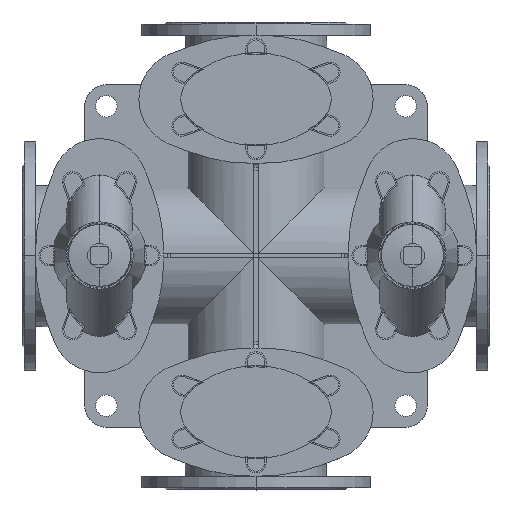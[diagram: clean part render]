
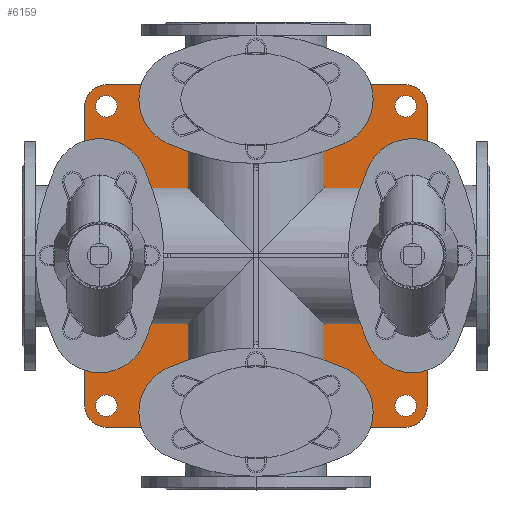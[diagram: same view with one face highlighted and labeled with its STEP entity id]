
A CAD part, top view. The second image highlights one B-rep face of the part: STEP entity #6159.
In plain terms, the highlighted planar face has unit normal (0, 0, 1).
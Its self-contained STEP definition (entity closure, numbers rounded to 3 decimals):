
#6159=ADVANCED_FACE('',(#11898,#11899,#11900,#11901,#11902),#11903,.F.);
#11898=FACE_BOUND('',#18920,.T.);
#11899=FACE_BOUND('',#18921,.T.);
#11900=FACE_BOUND('',#18922,.T.);
#11901=FACE_BOUND('',#18923,.T.);
#11902=FACE_OUTER_BOUND('',#18924,.T.);
#11903=PLANE('',#18925);
#18920=EDGE_LOOP('',(#30917,#30918));
#18921=EDGE_LOOP('',(#30919,#30920));
#18922=EDGE_LOOP('',(#30921,#30922));
#18923=EDGE_LOOP('',(#30923,#30924));
#18924=EDGE_LOOP('',(#30925,#30926,#30927,#30928,#30929,#30930,#30931,#30932));
#18925=AXIS2_PLACEMENT_3D('',#30933,#30934,#30935);
#30917=ORIENTED_EDGE('',*,*,#38032,.T.);
#30918=ORIENTED_EDGE('',*,*,#41721,.T.);
#30919=ORIENTED_EDGE('',*,*,#41421,.T.);
#30920=ORIENTED_EDGE('',*,*,#41924,.T.);
#30921=ORIENTED_EDGE('',*,*,#40003,.T.);
#30922=ORIENTED_EDGE('',*,*,#38084,.T.);
#30923=ORIENTED_EDGE('',*,*,#37598,.T.);
#30924=ORIENTED_EDGE('',*,*,#38601,.T.);
#30925=ORIENTED_EDGE('',*,*,#41777,.F.);
#30926=ORIENTED_EDGE('',*,*,#39306,.F.);
#30927=ORIENTED_EDGE('',*,*,#41925,.F.);
#30928=ORIENTED_EDGE('',*,*,#38465,.F.);
#30929=ORIENTED_EDGE('',*,*,#41926,.F.);
#30930=ORIENTED_EDGE('',*,*,#41927,.F.);
#30931=ORIENTED_EDGE('',*,*,#38788,.F.);
#30932=ORIENTED_EDGE('',*,*,#39996,.F.);
#30933=CARTESIAN_POINT('',(347.5,0.,27.0));
#30934=DIRECTION('',(0.0,0.0,-1.0));
#30935=DIRECTION('',(-1.0,0.0,0.0));
#37598=EDGE_CURVE('',#44272,#44277,#44279,.T.);
#38032=EDGE_CURVE('',#45039,#45041,#45043,.T.);
#38084=EDGE_CURVE('',#45134,#45132,#45135,.T.);
#38465=EDGE_CURVE('',#45791,#45792,#45793,.T.);
#38601=EDGE_CURVE('',#44277,#44272,#46021,.T.);
#38788=EDGE_CURVE('',#46336,#46337,#46338,.T.);
#39306=EDGE_CURVE('',#47161,#47162,#47163,.T.);
#39996=EDGE_CURVE('',#48202,#46336,#48203,.T.);
#40003=EDGE_CURVE('',#45132,#45134,#48212,.T.);
#41421=EDGE_CURVE('',#50217,#50219,#50221,.T.);
#41721=EDGE_CURVE('',#45041,#45039,#50600,.T.);
#41777=EDGE_CURVE('',#47162,#48202,#50670,.T.);
#41924=EDGE_CURVE('',#50219,#50217,#50852,.T.);
#41925=EDGE_CURVE('',#45792,#47161,#50853,.T.);
#41926=EDGE_CURVE('',#50854,#45791,#50855,.T.);
#41927=EDGE_CURVE('',#46337,#50854,#50856,.T.);
#44272=VERTEX_POINT('',#53624);
#44277=VERTEX_POINT('',#53630);
#44279=CIRCLE('',#53633,16.0);
#45039=VERTEX_POINT('',#54593);
#45041=VERTEX_POINT('',#54596);
#45043=CIRCLE('',#54599,16.0);
#45132=VERTEX_POINT('',#54713);
#45134=VERTEX_POINT('',#54716);
#45135=CIRCLE('',#54717,16.0);
#45791=VERTEX_POINT('',#55550);
#45792=VERTEX_POINT('',#55551);
#45793=CIRCLE('',#55552,32.0);
#46021=CIRCLE('',#55842,16.0);
#46336=VERTEX_POINT('',#56253);
#46337=VERTEX_POINT('',#56254);
#46338=LINE('',#56255,#56256);
#47161=VERTEX_POINT('',#57308);
#47162=VERTEX_POINT('',#57309);
#47163=CIRCLE('',#57310,32.0);
#48202=VERTEX_POINT('',#58700);
#48203=CIRCLE('',#58701,32.0);
#48212=CIRCLE('',#58713,16.0);
#50217=VERTEX_POINT('',#61312);
#50219=VERTEX_POINT('',#61315);
#50221=CIRCLE('',#61318,16.0);
#50600=CIRCLE('',#61810,16.0);
#50670=LINE('',#61902,#61903);
#50852=CIRCLE('',#62138,16.0);
#50853=LINE('',#62139,#62140);
#50854=VERTEX_POINT('',#62141);
#50855=LINE('',#62142,#62143);
#50856=CIRCLE('',#62144,32.0);
#53624=CARTESIAN_POINT('',(586.0,222.5,27.0));
#53630=CARTESIAN_POINT('',(554.0,222.5,27.0));
#53633=AXIS2_PLACEMENT_3D('',#64891,#64892,#64893);
#54593=CARTESIAN_POINT('',(141.0,222.5,27.0));
#54596=CARTESIAN_POINT('',(109.0,222.5,27.0));
#54599=AXIS2_PLACEMENT_3D('',#65537,#65538,#65539);
#54713=CARTESIAN_POINT('',(586.0,-222.5,27.0));
#54716=CARTESIAN_POINT('',(554.0,-222.5,27.0));
#54717=AXIS2_PLACEMENT_3D('',#65608,#65609,#65610);
#55550=CARTESIAN_POINT('',(570.0,254.5,27.0));
#55551=CARTESIAN_POINT('',(602.0,222.5,27.0));
#55552=AXIS2_PLACEMENT_3D('',#66172,#66173,#66174);
#55842=AXIS2_PLACEMENT_3D('',#66372,#66373,#66374);
#56253=CARTESIAN_POINT('',(93.0,-222.5,27.0));
#56254=CARTESIAN_POINT('',(93.0,222.5,27.0));
#56255=CARTESIAN_POINT('',(93.0,-222.5,27.0));
#56256=VECTOR('',#66615,1.0);
#57308=CARTESIAN_POINT('',(602.0,-222.5,27.0));
#57309=CARTESIAN_POINT('',(570.0,-254.5,27.0));
#57310=AXIS2_PLACEMENT_3D('',#67355,#67356,#67357);
#58700=CARTESIAN_POINT('',(125.0,-254.5,27.0));
#58701=AXIS2_PLACEMENT_3D('',#68156,#68157,#68158);
#58713=AXIS2_PLACEMENT_3D('',#68165,#68166,#68167);
#61312=CARTESIAN_POINT('',(141.0,-222.5,27.0));
#61315=CARTESIAN_POINT('',(109.0,-222.5,27.0));
#61318=AXIS2_PLACEMENT_3D('',#70018,#70019,#70020);
#61810=AXIS2_PLACEMENT_3D('',#70362,#70363,#70364);
#61902=CARTESIAN_POINT('',(570.0,-254.5,27.0));
#61903=VECTOR('',#70423,1.0);
#62138=AXIS2_PLACEMENT_3D('',#70582,#70583,#70584);
#62139=CARTESIAN_POINT('',(602.0,222.5,27.0));
#62140=VECTOR('',#70585,1.0);
#62141=CARTESIAN_POINT('',(125.0,254.5,27.0));
#62142=CARTESIAN_POINT('',(125.0,254.5,27.0));
#62143=VECTOR('',#70586,1.0);
#62144=AXIS2_PLACEMENT_3D('',#70587,#70588,#70589);
#64891=CARTESIAN_POINT('',(570.0,222.5,27.0));
#64892=DIRECTION('',(0.0,0.0,-1.0));
#64893=DIRECTION('',(1.0,0.0,0.0));
#65537=CARTESIAN_POINT('',(125.0,222.5,27.0));
#65538=DIRECTION('',(0.0,0.0,-1.0));
#65539=DIRECTION('',(1.0,0.0,0.0));
#65608=CARTESIAN_POINT('',(570.0,-222.5,27.0));
#65609=DIRECTION('',(0.0,0.0,-1.0));
#65610=DIRECTION('',(1.0,0.0,0.0));
#66172=CARTESIAN_POINT('',(570.0,222.5,27.0));
#66173=DIRECTION('',(0.0,0.0,-1.0));
#66174=DIRECTION('',(-1.0,0.0,0.0));
#66372=CARTESIAN_POINT('',(570.0,222.5,27.0));
#66373=DIRECTION('',(0.0,0.0,-1.0));
#66374=DIRECTION('',(1.0,0.0,0.0));
#66615=DIRECTION('',(0.0,1.0,0.0));
#67355=CARTESIAN_POINT('',(570.0,-222.5,27.0));
#67356=DIRECTION('',(0.0,0.0,-1.0));
#67357=DIRECTION('',(-1.0,0.0,0.0));
#68156=CARTESIAN_POINT('',(125.0,-222.5,27.0));
#68157=DIRECTION('',(0.0,0.0,-1.0));
#68158=DIRECTION('',(-1.0,0.0,0.0));
#68165=CARTESIAN_POINT('',(570.0,-222.5,27.0));
#68166=DIRECTION('',(0.0,0.0,-1.0));
#68167=DIRECTION('',(1.0,0.0,0.0));
#70018=CARTESIAN_POINT('',(125.0,-222.5,27.0));
#70019=DIRECTION('',(0.0,0.0,-1.0));
#70020=DIRECTION('',(1.0,0.0,0.0));
#70362=CARTESIAN_POINT('',(125.0,222.5,27.0));
#70363=DIRECTION('',(0.0,0.0,-1.0));
#70364=DIRECTION('',(1.0,0.0,0.0));
#70423=DIRECTION('',(-1.0,0.0,0.0));
#70582=CARTESIAN_POINT('',(125.0,-222.5,27.0));
#70583=DIRECTION('',(0.0,0.0,-1.0));
#70584=DIRECTION('',(1.0,0.0,0.0));
#70585=DIRECTION('',(0.0,-1.0,0.0));
#70586=DIRECTION('',(1.0,0.0,0.0));
#70587=CARTESIAN_POINT('',(125.0,222.5,27.0));
#70588=DIRECTION('',(0.0,0.0,-1.0));
#70589=DIRECTION('',(-1.0,0.0,0.0));
